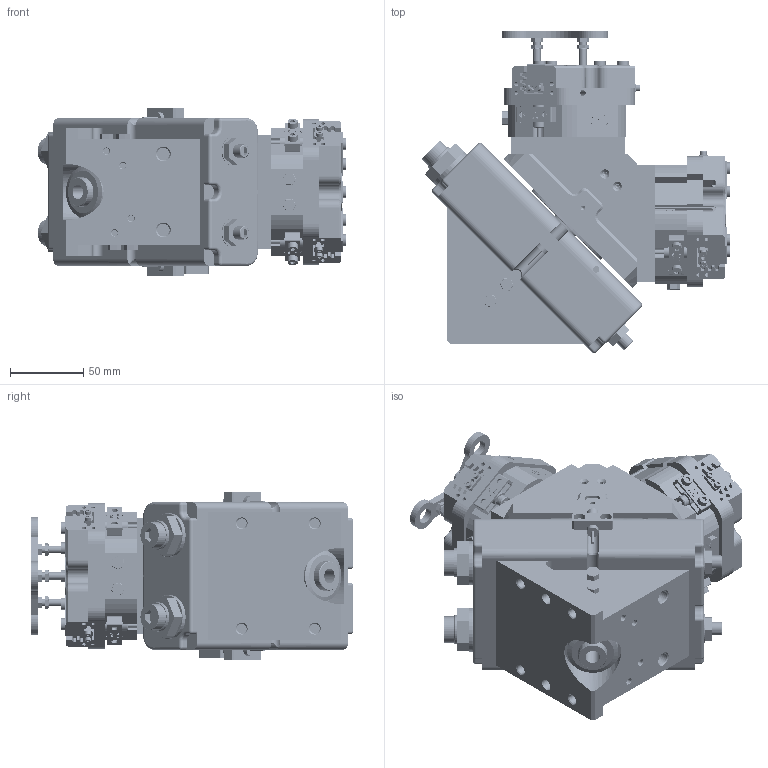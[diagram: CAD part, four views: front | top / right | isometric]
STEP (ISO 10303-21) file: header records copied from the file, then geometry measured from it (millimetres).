
FILE_DESCRIPTION (( 'STEP AP203' ), '1' );
FILE_NAME ('TG32-FZ55-100-180¡ã.STEP', '2025-08-18T03:06:07', ( 'USER-' ), ( 'Microsoft' ), 'SwSTEP 2.0', 'SolidWorks 2018', '' );
FILE_SCHEMA (( 'CONFIG_CONTROL_DESIGN' ));
Length unit declared in the file: millimetre
Products named in the file (49): 蟀諉啣9; ﾏ擎ﾗ8｡ﾁ6｡ﾁ6; TG32; 揤輸蚾饜极-1; TZT55-M-01 褲极; TG32-M-02 眻褒輸; TG32.sldasm-Part-69; TG32-M-05 遣喳傷裔; 棠羲換覜ん; TG32.sldasm-Part-61; TG32.sldasm-Part-90; 20241226-M4 M4換覜ん揤輸; 25x12-R3; FZ55-100-M-07 芢裝; 茞癹弇蹟譫; 电容传感器8x23接近开关; 内六角圆柱头螺钉[GBT70_1-2008][M2.5×8]; TG32.sldasm-Part-76; 茞癹弇傷裔菜え; TG32.sldasm-Part-92; TZT55 賑輸 01; TG32.sldasm-Part-71; TG32.sldasm-Part-83; TG32.sldasm-Part-68; 揤輸蚾饜极-2; FZ55-100; TG32.sldasm-Part-72; TG32.sldasm-Part-80; TZT55 陔笢猾啣; TG32-FZ55-100-180°; TG32.sldasm-Part-77; FZ55-100-M-08 芢啣; TG32-M-12-A茞癹弇傷裔; TG32.sldasm-Part-59; 茞癹弇蹟恇裝; 揤輸蚾饜极; TG32.sldasm-Part-84; TZT55-M-05 菁裔啣; 内六角圆柱头螺钉[GBT70_1-2008][M4×12]; TG32.sldasm-Part-63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
Assembly tree (106 placements, depth 4):
  TG32-FZ55-100-180°
    TG32
      TG32.sldasm-Part-59  x2
      TG32.sldasm-Part-60
      TG32.sldasm-Part-61
      TG32.sldasm-Part-62
      TG32.sldasm-Part-63
      TG32.sldasm-Part-68
      TG32.sldasm-Part-69
      TG32.sldasm-Part-70
      TG32.sldasm-Part-71
      TG32.sldasm-Part-72
      TG32.sldasm-Part-76
      TG32.sldasm-Part-77
      TG32.sldasm-Part-80
      TG32.sldasm-Part-82
      TG32.sldasm-Part-83
      TG32.sldasm-Part-84
      TG32.sldasm-Part-86
      TG32.sldasm-Part-90
      TG32.sldasm-Part-92
      TG32-M-05 遣喳傷裔
      TG32-M-12-A茞癹弇傷裔
      TG32-M-02 眻褒輸
      茞癹弇傷裔菜え  x2
      茞癹弇蹟恇裝  x2
      茞癹弇蹟譫  x2
      25x12-R3
    蟀諉啣9  x2
    TG32.sldasm-Part-60  x4
    FZ55-100-C30
      揤輸蚾饜极
        内六角圆柱头螺钉[GBT70_1-2008][M2.5×8]  x2
        苤覜聆假蚾璃
      揤輸蚾饜极-1
        内六角圆柱头螺钉[GBT70_1-2008][M2.5×8]  x2
        苤覜聆假蚾璃
      揤輸蚾饜极-2
        内六角圆柱头螺钉[GBT70_1-2008][M2.5×8]  x2
        苤覜聆假蚾璃
      TZT55-M-01 褲极
      TZT55-M-05 菁裔啣
      TZT55 賑輸 01  x3
      TZT55 陔笢猾啣
      电容传感器8x23接近开关  x2
      20241226-M4 M4換覜ん揤輸  x2
      16x8-R1.5
      棠羲換覜ん  x2
      ﾏ擎ﾗ8｡ﾁ6｡ﾁ6  x6
      FZ55-100-M-07 芢裝  x3
      FZ55-100-M-08 芢啣
      六角薄螺母_A级和B级[GBT6172_1-2000][M5]  x6
    FZ55-100
      揤輸蚾饜极
        内六角圆柱头螺钉[GBT70_1-2008][M2.5×8]  x2
        苤覜聆假蚾璃
      揤輸蚾饜极-1
        内六角圆柱头螺钉[GBT70_1-2008][M2.5×8]  x2
        苤覜聆假蚾璃
      揤輸蚾饜极-2
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Bounding box: 211.25 x 220.36 x 115 mm (x, y, z)
Volume: 2180068.3 mm3; surface area: 397940.5 mm2
Topology: 106 solids, 123 shells, 6143 faces, 15965 edges, 10229 vertices
Faces by surface type: plane 2993, cylinder 1492, bspline 911, cone 646, torus 91, sphere 10
Entity records: 110305 total; most frequent: CARTESIAN_POINT 33757, ORIENTED_EDGE 14988, DIRECTION 13456, EDGE_CURVE 7494, VERTEX_POINT 4878, VECTOR 4750, LINE 4750, AXIS2_PLACEMENT_3D 4353
